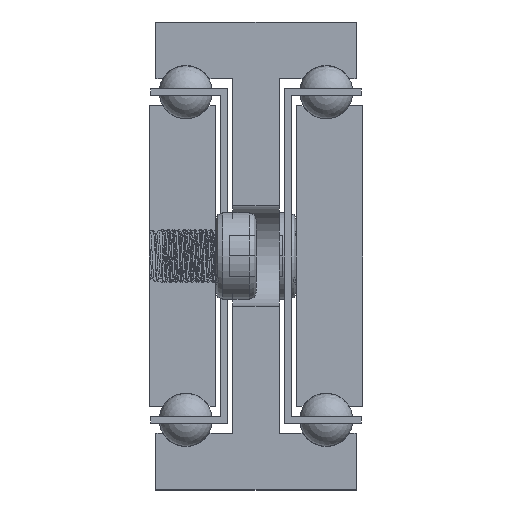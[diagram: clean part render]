
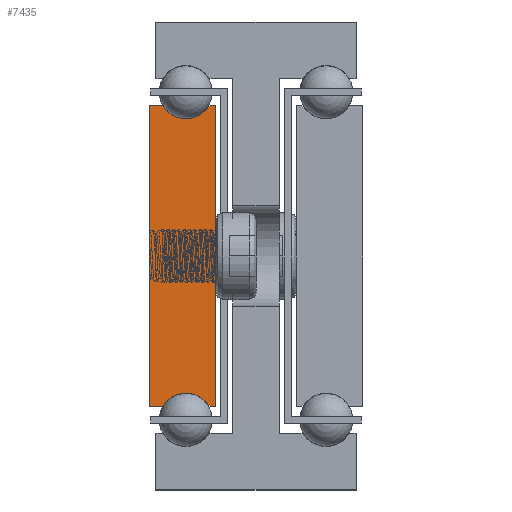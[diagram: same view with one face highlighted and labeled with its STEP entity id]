
A CAD part, front view. The second image highlights one B-rep face of the part: STEP entity #7435.
In plain terms, the highlighted planar face has unit normal (0, -1, 0).
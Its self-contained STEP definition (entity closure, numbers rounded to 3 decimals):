
#1229=CIRCLE('',#8015,4.);
#1231=CIRCLE('',#8021,4.);
#1889=FACE_OUTER_BOUND('',#2373,.T.);
#2373=EDGE_LOOP('',(#5894,#5895,#5896,#5897,#5898,#5899,#5900,#5901));
#3212=LINE('',#100176,#3424);
#3215=LINE('',#100182,#3427);
#3219=LINE('',#100194,#3431);
#3222=LINE('',#100200,#3434);
#3225=LINE('',#100206,#3437);
#3229=LINE('',#100216,#3441);
#3424=VECTOR('',#8994,1.);
#3427=VECTOR('',#8999,1.);
#3431=VECTOR('',#9011,1.);
#3434=VECTOR('',#9016,1.);
#3437=VECTOR('',#9021,1.);
#3441=VECTOR('',#9033,1.);
#3724=VERTEX_POINT('',#100173);
#3725=VERTEX_POINT('',#100175);
#3727=VERTEX_POINT('',#100181);
#3729=VERTEX_POINT('',#100187);
#3731=VERTEX_POINT('',#100193);
#3733=VERTEX_POINT('',#100199);
#3735=VERTEX_POINT('',#100205);
#3737=VERTEX_POINT('',#100211);
#4674=EDGE_CURVE('',#3725,#3724,#3212,.T.);
#4677=EDGE_CURVE('',#3727,#3725,#3215,.T.);
#4680=EDGE_CURVE('',#3729,#3727,#1229,.T.);
#4683=EDGE_CURVE('',#3731,#3729,#3219,.T.);
#4686=EDGE_CURVE('',#3733,#3731,#3222,.T.);
#4689=EDGE_CURVE('',#3735,#3733,#3225,.T.);
#4692=EDGE_CURVE('',#3737,#3735,#1231,.T.);
#4695=EDGE_CURVE('',#3724,#3737,#3229,.T.);
#5894=ORIENTED_EDGE('',*,*,#4695,.T.);
#5895=ORIENTED_EDGE('',*,*,#4692,.T.);
#5896=ORIENTED_EDGE('',*,*,#4689,.T.);
#5897=ORIENTED_EDGE('',*,*,#4686,.T.);
#5898=ORIENTED_EDGE('',*,*,#4683,.T.);
#5899=ORIENTED_EDGE('',*,*,#4680,.T.);
#5900=ORIENTED_EDGE('',*,*,#4677,.T.);
#5901=ORIENTED_EDGE('',*,*,#4674,.T.);
#7289=PLANE('',#8024);
#7435=ADVANCED_FACE('',(#1889),#7289,.T.);
#8015=AXIS2_PLACEMENT_3D('',#100188,#9005,#9006);
#8021=AXIS2_PLACEMENT_3D('',#100212,#9027,#9028);
#8024=AXIS2_PLACEMENT_3D('',#100218,#9036,#9037);
#8994=DIRECTION('',(0.,0.,-1.));
#8999=DIRECTION('',(-1.,0.,0.));
#9005=DIRECTION('center_axis',(0.,1.,0.));
#9006=DIRECTION('ref_axis',(-0.866,0.,-0.5));
#9011=DIRECTION('',(-1.,0.,0.));
#9016=DIRECTION('',(0.,0.,1.));
#9021=DIRECTION('',(1.,0.,0.));
#9027=DIRECTION('center_axis',(0.,1.,0.));
#9028=DIRECTION('ref_axis',(0.866,0.,0.5));
#9033=DIRECTION('',(1.,0.,0.));
#9036=DIRECTION('center_axis',(0.,-1.,0.));
#9037=DIRECTION('ref_axis',(1.,0.,0.));
#100173=CARTESIAN_POINT('',(-1128.638,-1268.395,-57.5));
#100175=CARTESIAN_POINT('',(-1128.638,-1268.395,-12.5));
#100176=CARTESIAN_POINT('',(-1128.638,-1268.395,-57.5));
#100181=CARTESIAN_POINT('',(-1126.602,-1268.395,-12.5));
#100182=CARTESIAN_POINT('',(-1128.638,-1268.395,-12.5));
#100187=CARTESIAN_POINT('',(-1119.674,-1268.395,-12.5));
#100188=CARTESIAN_POINT('Origin',(-1123.138,-1268.395,-10.5));
#100193=CARTESIAN_POINT('',(-1118.638,-1268.395,-12.5));
#100194=CARTESIAN_POINT('',(-1119.674,-1268.395,-12.5));
#100199=CARTESIAN_POINT('',(-1118.638,-1268.395,-57.5));
#100200=CARTESIAN_POINT('',(-1118.638,-1268.395,-12.5));
#100205=CARTESIAN_POINT('',(-1119.674,-1268.395,-57.5));
#100206=CARTESIAN_POINT('',(-1118.638,-1268.395,-57.5));
#100211=CARTESIAN_POINT('',(-1126.602,-1268.395,-57.5));
#100212=CARTESIAN_POINT('Origin',(-1123.138,-1268.395,-59.5));
#100216=CARTESIAN_POINT('',(-1126.602,-1268.395,-57.5));
#100218=CARTESIAN_POINT('Origin',(-1123.644,-1268.395,-35.));
